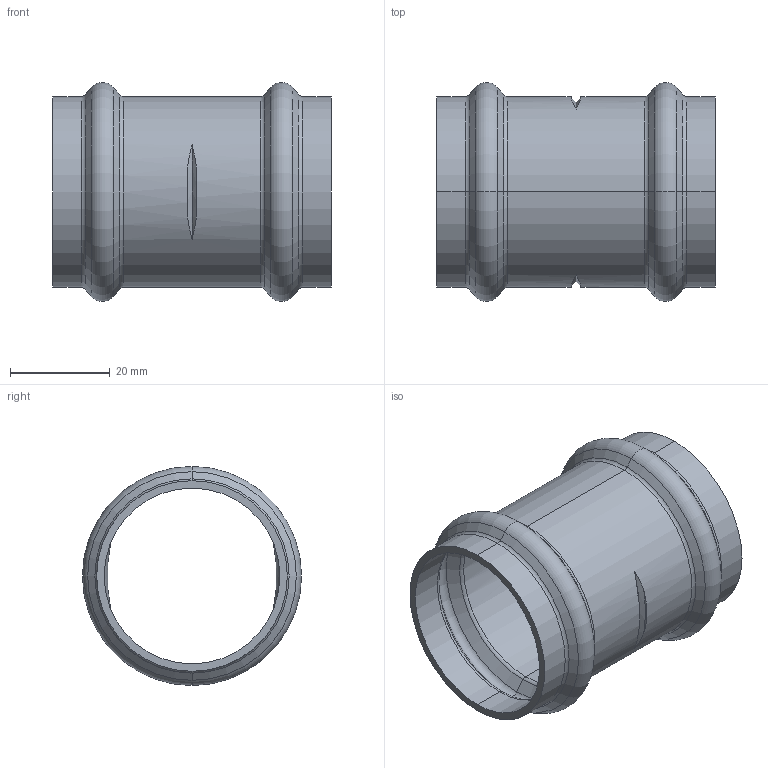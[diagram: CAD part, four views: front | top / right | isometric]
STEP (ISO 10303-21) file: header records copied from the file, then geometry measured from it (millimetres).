
FILE_DESCRIPTION (( 'STEP AP203' ), '1' );
FILE_NAME ('SP5270 35.STEP', '2017-04-24T09:19:03', ( '' ), ( '' ), 'SwSTEP 2.0', 'SolidWorks 2016', '' );
FILE_SCHEMA (( 'CONFIG_CONTROL_DESIGN' ));
Length unit declared in the file: millimetre
Products named in the file (1): SP5270 35
Bounding box: 56 x 44 x 44 mm (x, y, z)
Volume: 10524.6 mm3; surface area: 14810.9 mm2
Topology: 1 solids, 1 shells, 66 faces, 132 edges, 72 vertices
Faces by surface type: torus 28, cone 24, cylinder 12, plane 2
Entity records: 1949 total; most frequent: CARTESIAN_POINT 471, DIRECTION 338, ORIENTED_EDGE 264, AXIS2_PLACEMENT_3D 155, EDGE_CURVE 132, CIRCLE 88, EDGE_LOOP 72, VERTEX_POINT 72
